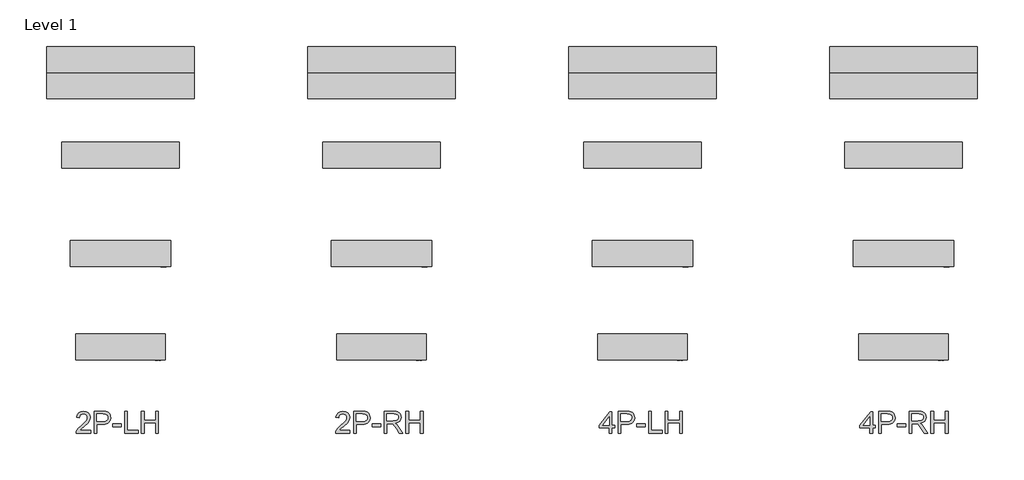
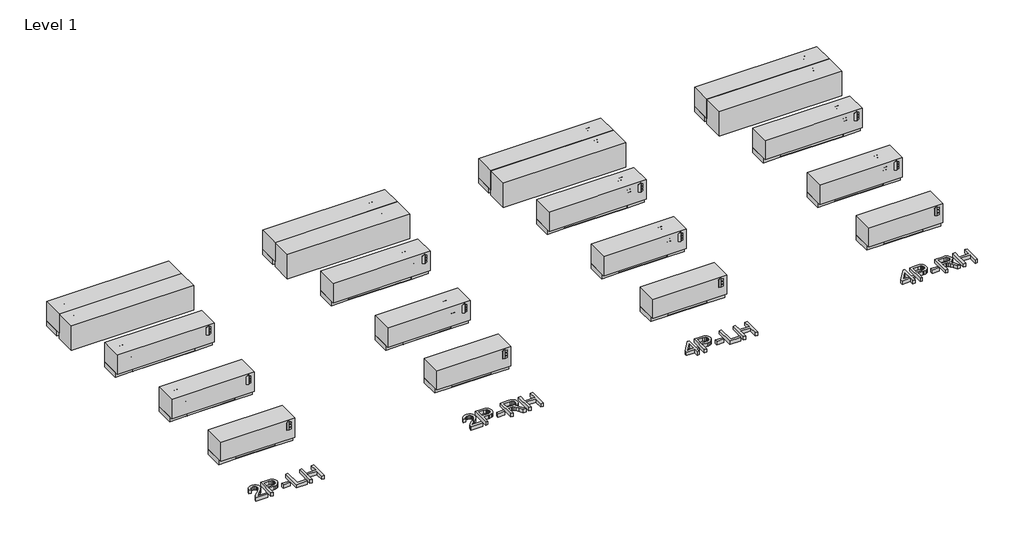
# One storey: 20 proxies.
"""IFC4 building model written with IfcOpenShell, lengths in millimetres."""

from ifc_helpers import new_model, si_unit, origin, origin_with_axes, place, context, project, spatial, polyline, outline, extrude, transform, mapped, element, save
from components import mechanical_equipment_0564a80a, mechanical_equipment_9b063579, mechanical_equipment_f1039a7d, mechanical_equipment_dbaeb260, mechanical_equipment_014a290c, mechanical_equipment_9fad054e, mechanical_equipment_87d96264, mechanical_equipment_ad819670, mechanical_equipment_322e51af, mechanical_equipment_0ebedba7, mechanical_equipment_0cc4002c, mechanical_equipment_2964302d

model = new_model("IFC4")

# Units and contexts
model_context = context("Model", 3, world=origin())
ifc_project = project(units=[si_unit("LENGTHUNIT", "METRE", prefix="MILLI")], contexts=[model_context])

# Site, building, storey
site = spatial("IfcSite", under=ifc_project)
building = spatial("IfcBuilding", under=site)
storey = spatial("IfcBuildingStorey", under=building, Name="Level 1", Elevation=0.0)

# Proxies
placement = place(None, origin())
mechanical_equipment_shape = mechanical_equipment_0564a80a(model_context)
element("IfcBuildingElementProxy", 1, Name="Exposed_Low_Boy_Fan_Coil_Unit Fan_-_LXA_-_IEC_-_4-Pipe_RH_2022 : Size 06 - 277v/60Hz/1Ph - 2/1 Coil", ObjectType="Exposed_Low_Boy_Fan_Coil_Unit Fan_-_LXA_-_IEC_-_4-Pipe_RH_2022 : Size 06 - 277v/60Hz/1Ph - 2/1 Coil", at=placement, inside=storey, context=model_context, shape_type="MappedRepresentation", body=[
    mapped(mechanical_equipment_shape, transform((-20535.4824685, 3427.6832997, 0.0), x_axis=(1.0, 0.0, 0.0), y_axis=(0.0, 1.0, 0.0), z_axis=(0.0, 0.0, 1.0))),
])
element("IfcBuildingElementProxy", 2, Name="Exposed_Low_Boy_Fan_Coil_Unit Fan_-_LXA_-_IEC_-_4-Pipe_LH_2022 : Size 06 - 277v/60Hz/1Ph - 2/1 Coil", ObjectType="Exposed_Low_Boy_Fan_Coil_Unit Fan_-_LXA_-_IEC_-_4-Pipe_LH_2022 : Size 06 - 277v/60Hz/1Ph - 2/1 Coil", at=placement, inside=storey, context=model_context, shape_type="MappedRepresentation", body=[
    mapped(mechanical_equipment_shape, transform((-23583.4824685, 3427.6832997, 0.0), x_axis=(1.0, 0.0, 0.0), y_axis=(0.0, 1.0, 0.0), z_axis=(0.0, 0.0, 1.0))),
])
mechanical_equipment_2_shape = mechanical_equipment_9b063579(model_context)
element("IfcBuildingElementProxy", 3, Name="Exposed_Low_Boy_Fan_Coil_Unit Fan_-_LXA_-_IEC_-_2-Pipe_LH_2022 : Size 06 - 277v/60Hz/1Ph - 2/1 Coil", ObjectType="Exposed_Low_Boy_Fan_Coil_Unit Fan_-_LXA_-_IEC_-_2-Pipe_LH_2022 : Size 06 - 277v/60Hz/1Ph - 2/1 Coil", at=placement, inside=storey, context=model_context, shape_type="MappedRepresentation", body=[
    mapped(mechanical_equipment_2_shape, transform((-29679.4824685, 3427.6832997, 0.0), x_axis=(1.0, 0.0, 0.0), y_axis=(0.0, 1.0, 0.0), z_axis=(0.0, 0.0, 1.0))),
])
mechanical_equipment_3_shape = mechanical_equipment_f1039a7d(model_context)
element("IfcBuildingElementProxy", 4, Name="Exposed_Low_Boy_Fan_Coil_Unit Fan_-_LXA_-_IEC_-_2-Pipe_RH_2022 : Size 06 - 277v/60Hz/1Ph - 2/1 Coil", ObjectType="Exposed_Low_Boy_Fan_Coil_Unit Fan_-_LXA_-_IEC_-_2-Pipe_RH_2022 : Size 06 - 277v/60Hz/1Ph - 2/1 Coil", at=placement, inside=storey, context=model_context, shape_type="MappedRepresentation", body=[
    mapped(mechanical_equipment_3_shape, transform((-26631.4824685, 3427.6832997, 0.0), x_axis=(1.0, 0.0, 0.0), y_axis=(0.0, 1.0, 0.0), z_axis=(0.0, 0.0, 1.0))),
])
mechanical_equipment_4_shape = mechanical_equipment_dbaeb260(model_context)
element("IfcBuildingElementProxy", 5, Name="Exposed_Low_Boy_Fan_Coil_Unit Fan_-_LXA_-_IEC_-_2-Pipe_LH_2022 : Size 02 - 277v/60Hz/1Ph - 2/1 Coil", ObjectType="Exposed_Low_Boy_Fan_Coil_Unit Fan_-_LXA_-_IEC_-_2-Pipe_LH_2022 : Size 02 - 277v/60Hz/1Ph - 2/1 Coil", at=placement, inside=storey, context=model_context, shape_type="MappedRepresentation", body=[
    mapped(mechanical_equipment_4_shape, transform((-29336.5824685, 66.3659997, 0.0), x_axis=(1.0, 0.0, 0.0), y_axis=(0.0, 1.0, 0.0), z_axis=(0.0, 0.0, 1.0))),
])
mechanical_equipment_5_shape = mechanical_equipment_014a290c(model_context)
element("IfcBuildingElementProxy", 6, Name="Exposed_Low_Boy_Fan_Coil_Unit Fan_-_LXA_-_IEC_-_2-Pipe_LH_2022 : Size 03 - 277v/60Hz/1Ph - 2/1 Coil", ObjectType="Exposed_Low_Boy_Fan_Coil_Unit Fan_-_LXA_-_IEC_-_2-Pipe_LH_2022 : Size 03 - 277v/60Hz/1Ph - 2/1 Coil", at=placement, inside=storey, context=model_context, shape_type="MappedRepresentation", body=[
    mapped(mechanical_equipment_5_shape, transform((-29400.0824685, 1158.1373442, 0.0), x_axis=(1.0, 0.0, 0.0), y_axis=(0.0, 1.0, 0.0), z_axis=(0.0, 0.0, 1.0))),
])
mechanical_equipment_6_shape = mechanical_equipment_9fad054e(model_context)
element("IfcBuildingElementProxy", 7, Name="Exposed_Low_Boy_Fan_Coil_Unit Fan_-_LXA_-_IEC_-_2-Pipe_LH_2022 : Size 04 - 277v/60Hz/1Ph - 2/1 Coil", ObjectType="Exposed_Low_Boy_Fan_Coil_Unit Fan_-_LXA_-_IEC_-_2-Pipe_LH_2022 : Size 04 - 277v/60Hz/1Ph - 2/1 Coil", at=placement, inside=storey, context=model_context, shape_type="MappedRepresentation", body=[
    mapped(mechanical_equipment_6_shape, transform((-29501.6824685, 2312.2956227, 0.0), x_axis=(1.0, 0.0, 0.0), y_axis=(0.0, 1.0, 0.0), z_axis=(0.0, 0.0, 1.0))),
])
mechanical_equipment_7_shape = mechanical_equipment_87d96264(model_context)
element("IfcBuildingElementProxy", 8, Name="Exposed_Low_Boy_Fan_Coil_Unit Fan_-_LXA_-_IEC_-_2-Pipe_RH_2022 : Size 02 - 277v/60Hz/1Ph - 2/1 Coil", ObjectType="Exposed_Low_Boy_Fan_Coil_Unit Fan_-_LXA_-_IEC_-_2-Pipe_RH_2022 : Size 02 - 277v/60Hz/1Ph - 2/1 Coil", at=placement, inside=storey, context=model_context, shape_type="MappedRepresentation", body=[
    mapped(mechanical_equipment_7_shape, transform((-26288.5824685, 66.3659997, 0.0), x_axis=(1.0, 0.0, 0.0), y_axis=(0.0, 1.0, 0.0), z_axis=(0.0, 0.0, 1.0))),
])
mechanical_equipment_8_shape = mechanical_equipment_ad819670(model_context)
element("IfcBuildingElementProxy", 9, Name="Exposed_Low_Boy_Fan_Coil_Unit Fan_-_LXA_-_IEC_-_2-Pipe_RH_2022 : Size 03 - 277v/60Hz/1Ph - 2/1 Coil", ObjectType="Exposed_Low_Boy_Fan_Coil_Unit Fan_-_LXA_-_IEC_-_2-Pipe_RH_2022 : Size 03 - 277v/60Hz/1Ph - 2/1 Coil", at=placement, inside=storey, context=model_context, shape_type="MappedRepresentation", body=[
    mapped(mechanical_equipment_8_shape, transform((-26352.0824685, 1158.1373442, 0.0), x_axis=(1.0, 0.0, 0.0), y_axis=(0.0, 1.0, 0.0), z_axis=(0.0, 0.0, 1.0))),
])
mechanical_equipment_9_shape = mechanical_equipment_322e51af(model_context)
element("IfcBuildingElementProxy", 10, Name="Exposed_Low_Boy_Fan_Coil_Unit Fan_-_LXA_-_IEC_-_2-Pipe_RH_2022 : Size 04 - 277v/60Hz/1Ph - 2/1 Coil", ObjectType="Exposed_Low_Boy_Fan_Coil_Unit Fan_-_LXA_-_IEC_-_2-Pipe_RH_2022 : Size 04 - 277v/60Hz/1Ph - 2/1 Coil", at=placement, inside=storey, context=model_context, shape_type="MappedRepresentation", body=[
    mapped(mechanical_equipment_9_shape, transform((-26453.6824685, 2312.2956227, 0.0), x_axis=(1.0, 0.0, 0.0), y_axis=(0.0, 1.0, 0.0), z_axis=(0.0, 0.0, 1.0))),
])
mechanical_equipment_10_shape = mechanical_equipment_0ebedba7(model_context)
element("IfcBuildingElementProxy", 11, Name="Exposed_Low_Boy_Fan_Coil_Unit Fan_-_LXA_-_IEC_-_4-Pipe_LH_2022 : Size 02 - 277v/60Hz/1Ph - 2/1 Coil", ObjectType="Exposed_Low_Boy_Fan_Coil_Unit Fan_-_LXA_-_IEC_-_4-Pipe_LH_2022 : Size 02 - 277v/60Hz/1Ph - 2/1 Coil", at=placement, inside=storey, context=model_context, shape_type="MappedRepresentation", body=[
    mapped(mechanical_equipment_10_shape, transform((-23240.5824685, 66.3659997, 0.0), x_axis=(1.0, 0.0, 0.0), y_axis=(0.0, 1.0, 0.0), z_axis=(0.0, 0.0, 1.0))),
])
mechanical_equipment_11_shape = mechanical_equipment_0cc4002c(model_context)
element("IfcBuildingElementProxy", 12, Name="Exposed_Low_Boy_Fan_Coil_Unit Fan_-_LXA_-_IEC_-_4-Pipe_LH_2022 : Size 03 - 277v/60Hz/1Ph - 2/1 Coil", ObjectType="Exposed_Low_Boy_Fan_Coil_Unit Fan_-_LXA_-_IEC_-_4-Pipe_LH_2022 : Size 03 - 277v/60Hz/1Ph - 2/1 Coil", at=placement, inside=storey, context=model_context, shape_type="MappedRepresentation", body=[
    mapped(mechanical_equipment_11_shape, transform((-23304.0824685, 1158.1373442, 0.0), x_axis=(1.0, 0.0, 0.0), y_axis=(0.0, 1.0, 0.0), z_axis=(0.0, 0.0, 1.0))),
])
mechanical_equipment_12_shape = mechanical_equipment_2964302d(model_context)
element("IfcBuildingElementProxy", 13, Name="Exposed_Low_Boy_Fan_Coil_Unit Fan_-_LXA_-_IEC_-_4-Pipe_LH_2022 : Size 04 - 277v/60Hz/1Ph - 2/1 Coil", ObjectType="Exposed_Low_Boy_Fan_Coil_Unit Fan_-_LXA_-_IEC_-_4-Pipe_LH_2022 : Size 04 - 277v/60Hz/1Ph - 2/1 Coil", at=placement, inside=storey, context=model_context, shape_type="MappedRepresentation", body=[
    mapped(mechanical_equipment_12_shape, transform((-23405.6824685, 2312.2956227, 0.0), x_axis=(1.0, 0.0, 0.0), y_axis=(0.0, 1.0, 0.0), z_axis=(0.0, 0.0, 1.0))),
])
element("IfcBuildingElementProxy", 14, Name="Exposed_Low_Boy_Fan_Coil_Unit Fan_-_LXA_-_IEC_-_4-Pipe_RH_2022 : Size 02 - 277v/60Hz/1Ph - 2/1 Coil", ObjectType="Exposed_Low_Boy_Fan_Coil_Unit Fan_-_LXA_-_IEC_-_4-Pipe_RH_2022 : Size 02 - 277v/60Hz/1Ph - 2/1 Coil", at=placement, inside=storey, context=model_context, shape_type="MappedRepresentation", body=[
    mapped(mechanical_equipment_10_shape, transform((-20192.5824685, 66.3659997, 0.0), x_axis=(1.0, 0.0, 0.0), y_axis=(0.0, 1.0, 0.0), z_axis=(0.0, 0.0, 1.0))),
])
element("IfcBuildingElementProxy", 15, Name="Exposed_Low_Boy_Fan_Coil_Unit Fan_-_LXA_-_IEC_-_4-Pipe_RH_2022 : Size 03 - 277v/60Hz/1Ph - 2/1 Coil", ObjectType="Exposed_Low_Boy_Fan_Coil_Unit Fan_-_LXA_-_IEC_-_4-Pipe_RH_2022 : Size 03 - 277v/60Hz/1Ph - 2/1 Coil", at=placement, inside=storey, context=model_context, shape_type="MappedRepresentation", body=[
    mapped(mechanical_equipment_11_shape, transform((-20256.0824685, 1158.1373442, 0.0), x_axis=(1.0, 0.0, 0.0), y_axis=(0.0, 1.0, 0.0), z_axis=(0.0, 0.0, 1.0))),
])
element("IfcBuildingElementProxy", 16, Name="Exposed_Low_Boy_Fan_Coil_Unit Fan_-_LXA_-_IEC_-_4-Pipe_RH_2022 : Size 04 - 277v/60Hz/1Ph - 2/1 Coil", ObjectType="Exposed_Low_Boy_Fan_Coil_Unit Fan_-_LXA_-_IEC_-_4-Pipe_RH_2022 : Size 04 - 277v/60Hz/1Ph - 2/1 Coil", at=placement, inside=storey, context=model_context, shape_type="MappedRepresentation", body=[
    mapped(mechanical_equipment_12_shape, transform((-20357.6824685, 2312.2956227, 0.0), x_axis=(1.0, 0.0, 0.0), y_axis=(0.0, 1.0, 0.0), z_axis=(0.0, 0.0, 1.0))),
])
element("IfcBuildingElementProxy", 17, Name="24\" Arial", ObjectType="24\" Arial", at=placement, inside=storey, context=model_context, shape_type="SweptSolid", body=[
    extrude(outline(polyline([(-29013.6266128, -1298.4132129), (-29013.6266128, -1330.3080913), (-29181.0747248, -1330.3080913), (-29177.6485172, -1308.3180677), (-29169.7838133, -1291.1325216), (-29158.2748703, -1274.4609067), (-29118.3439775, -1237.4890114), (-29083.9261643, -1206.917895), (-29063.2754764, -1184.3516455), (-29052.9501324, -1166.0370083), (-29049.5083511, -1148.2207285), (-29052.7554616, -1132.2499287), (-29062.4967928, -1118.9733741), (-29077.4708776, -1110.0263), (-29096.4162486, -1107.043942), (-29116.3116134, -1109.9562185), (-29131.768482, -1118.693048), (-29141.7434184, -1132.569189), (-29145.1929865, -1150.8993999), (-29177.087865, -1146.9125401), (-29169.3555373, -1116.0610976), (-29152.6372013, -1093.5259955), (-29127.8049827, -1079.7432965), (-29095.731007, -1075.1490635), (-29063.4234263, -1080.2572277), (-29038.6379287, -1095.5817201), (-29022.8695867, -1118.4750166), (-29017.6134726, -1146.2895933), (-29023.2822889, -1176.5336626), (-29042.126431, -1207.8055942), (-29087.8195821, -1251.5053154), (-29124.5111513, -1282.1854475), (-29138.9012234, -1298.4132129), (-29013.6266128, -1298.4132129)])), origin_with_axes(), (0.0, 0.0, 1.0), 50.8),
    extrude(outline(polyline([(-28969.7711549, -1330.3080913), (-28969.7711549, -1075.1490635), (-28875.2078238, -1075.1490635), (-28837.0834769, -1077.5785562), (-28820.0848149, -1082.1182814), (-28806.0918714, -1089.5079883), (-28794.8243203, -1100.082511), (-28786.0018356, -1114.1766834), (-28780.301872, -1130.8015773), (-28778.4018841, -1148.9682647), (-28783.5334087, -1179.0410237), (-28798.9279827, -1204.0990605), (-28811.2564901, -1213.9649812), (-28827.7159137, -1221.0120673), (-28848.3062537, -1225.2403191), (-28873.0275099, -1226.6497363), (-28937.8762765, -1226.6497363), (-28937.8762765, -1330.3080913), (-28969.7711549, -1330.3080913)]), holes=[polyline([(-28937.8762765, -1194.7548578), (-28871.1586693, -1194.7548578), (-28842.8768826, -1191.8270076), (-28824.1884772, -1183.0434571), (-28813.7696912, -1168.9492848), (-28810.2967626, -1150.089569), (-28812.3447003, -1135.7617916), (-28818.4885136, -1123.6766228), (-28827.9650925, -1114.5815988), (-28840.0113271, -1109.224256), (-28871.9062056, -1107.043942), (-28937.8762765, -1107.043942), (-28937.8762765, -1194.7548578)])]), origin_with_axes(), (0.0, 0.0, 1.0), 50.8),
    extrude(outline(polyline([(-28754.4807253, -1254.557755), (-28754.4807253, -1222.6628765), (-28654.80923, -1222.6628765), (-28654.80923, -1254.557755), (-28754.4807253, -1254.557755)])), origin_with_axes(), (0.0, 0.0, 1.0), 50.8),
    extrude(outline(polyline([(-28614.9406319, -1330.3080913), (-28614.9406319, -1075.1490635), (-28583.0457535, -1075.1490635), (-28583.0457535, -1298.4132129), (-28455.4662396, -1298.4132129), (-28455.4662396, -1330.3080913), (-28614.9406319, -1330.3080913)])), origin_with_axes(), (0.0, 0.0, 1.0), 50.8),
    extrude(outline(polyline([(-28419.5845013, -1330.3080913), (-28419.5845013, -1075.1490635), (-28387.6896228, -1075.1490635), (-28387.6896228, -1178.8074186), (-28252.1363893, -1178.8074186), (-28252.1363893, -1075.1490635), (-28220.2415108, -1075.1490635), (-28220.2415108, -1330.3080913), (-28252.1363893, -1330.3080913), (-28252.1363893, -1210.7022971), (-28387.6896228, -1210.7022971), (-28387.6896228, -1330.3080913), (-28419.5845013, -1330.3080913)])), origin_with_axes(), (0.0, 0.0, 1.0), 50.8),
])
element("IfcBuildingElementProxy", 18, Name="24\" Arial", ObjectType="24\" Arial", at=placement, inside=storey, context=model_context, shape_type="SweptSolid", body=[
    extrude(outline(polyline([(-25983.7177825, -1298.4132129), (-25983.7177825, -1330.3080913), (-26151.1658945, -1330.3080913), (-26147.7396868, -1308.3180677), (-26139.8749829, -1291.1325216), (-26128.3660399, -1274.4609067), (-26088.4351472, -1237.4890114), (-26054.017334, -1206.917895), (-26033.3666461, -1184.3516455), (-26023.0413021, -1166.0370083), (-26019.5995208, -1148.2207285), (-26022.8466312, -1132.2499287), (-26032.5879625, -1118.9733741), (-26047.5620473, -1110.0263), (-26066.5074182, -1107.043942), (-26086.4027831, -1109.9562185), (-26101.8596517, -1118.693048), (-26111.834588, -1132.569189), (-26115.2841562, -1150.8993999), (-26147.1790347, -1146.9125401), (-26139.4467069, -1116.0610976), (-26122.728371, -1093.5259955), (-26097.8961524, -1079.7432965), (-26065.8221767, -1075.1490635), (-26033.5145959, -1080.2572277), (-26008.7290983, -1095.5817201), (-25992.9607563, -1118.4750166), (-25987.7046423, -1146.2895933), (-25993.3734586, -1176.5336626), (-26012.2176007, -1207.8055942), (-26057.9107518, -1251.5053154), (-26094.6023209, -1282.1854475), (-26108.9923931, -1298.4132129), (-25983.7177825, -1298.4132129)])), origin_with_axes(), (0.0, 0.0, 1.0), 50.8),
    extrude(outline(polyline([(-25939.8623246, -1330.3080913), (-25939.8623246, -1075.1490635), (-25845.2989935, -1075.1490635), (-25807.1746466, -1077.5785562), (-25790.1759845, -1082.1182814), (-25776.183041, -1089.5079883), (-25764.91549, -1100.082511), (-25756.0930053, -1114.1766834), (-25750.3930416, -1130.8015773), (-25748.4930538, -1148.9682647), (-25753.6245784, -1179.0410237), (-25769.0191523, -1204.0990605), (-25781.3476597, -1213.9649812), (-25797.8070834, -1221.0120673), (-25818.3974233, -1225.2403191), (-25843.1186795, -1226.6497363), (-25907.9674461, -1226.6497363), (-25907.9674461, -1330.3080913), (-25939.8623246, -1330.3080913)]), holes=[polyline([(-25907.9674461, -1194.7548578), (-25841.249839, -1194.7548578), (-25812.9680522, -1191.8270076), (-25794.2796469, -1183.0434571), (-25783.8608609, -1168.9492848), (-25780.3879322, -1150.089569), (-25782.43587, -1135.7617916), (-25788.5796832, -1123.6766228), (-25798.0562621, -1114.5815988), (-25810.1024967, -1109.224256), (-25841.9973752, -1107.043942), (-25907.9674461, -1107.043942), (-25907.9674461, -1194.7548578)])]), origin_with_axes(), (0.0, 0.0, 1.0), 50.8),
    extrude(outline(polyline([(-25724.5718949, -1254.557755), (-25724.5718949, -1222.6628765), (-25624.9003997, -1222.6628765), (-25624.9003997, -1254.557755), (-25724.5718949, -1254.557755)])), origin_with_axes(), (0.0, 0.0, 1.0), 50.8),
    extrude(outline(polyline([(-25585.0318016, -1330.3080913), (-25585.0318016, -1075.1490635), (-25475.0816834, -1075.1490635), (-25445.5306424, -1076.8699542), (-25424.0311895, -1082.0326262), (-25408.3173553, -1091.5637129), (-25396.1231708, -1106.3898478), (-25388.297401, -1124.7745666), (-25385.6888111, -1144.9814049), (-25390.0105049, -1170.1173101), (-25402.9755861, -1190.9548821), (-25424.9733966, -1206.2326534), (-25456.3932781, -1214.6891569), (-25438.2655249, -1228.3316928), (-25412.4132308, -1261.1609915), (-25369.8659613, -1330.3080913), (-25406.9312986, -1330.3080913), (-25440.1343654, -1277.4199042), (-25464.1178189, -1242.4102915), (-25480.9685311, -1225.8710527), (-25496.1372868, -1219.797321), (-25514.6388081, -1218.6760167), (-25553.1369231, -1218.6760167), (-25553.1369231, -1330.3080913), (-25585.0318016, -1330.3080913)]), holes=[polyline([(-25553.1369231, -1186.7811382), (-25481.7472147, -1186.7811382), (-25445.3359716, -1182.2647736), (-25433.3598185, -1176.3934996), (-25424.6541363, -1167.8124068), (-25419.3513013, -1157.432555), (-25417.5836896, -1146.1650039), (-25420.9553894, -1130.6069064), (-25431.0704888, -1118.0701012), (-25448.4740663, -1109.8004818), (-25473.7112004, -1107.043942), (-25553.1369231, -1107.043942), (-25553.1369231, -1186.7811382)])]), origin_with_axes(), (0.0, 0.0, 1.0), 50.8),
    extrude(outline(polyline([(-25329.8727738, -1330.3080913), (-25329.8727738, -1075.1490635), (-25297.9778953, -1075.1490635), (-25297.9778953, -1178.8074186), (-25162.4246618, -1178.8074186), (-25162.4246618, -1075.1490635), (-25130.5297834, -1075.1490635), (-25130.5297834, -1330.3080913), (-25162.4246618, -1330.3080913), (-25162.4246618, -1210.7022971), (-25297.9778953, -1210.7022971), (-25297.9778953, -1330.3080913), (-25329.8727738, -1330.3080913)])), origin_with_axes(), (0.0, 0.0, 1.0), 50.8),
])
element("IfcBuildingElementProxy", 19, Name="24\" Arial", ObjectType="24\" Arial", at=placement, inside=storey, context=model_context, shape_type="SweptSolid", body=[
    extrude(outline(polyline([(-22955.7019204, -1330.3080913), (-22955.7019204, -1270.5051942), (-23071.3208548, -1270.5051942), (-23071.3208548, -1238.6103157), (-22947.7282007, -1079.1359234), (-22923.8070419, -1079.1359234), (-22923.8070419, -1238.6103157), (-22891.9121634, -1238.6103157), (-22891.9121634, -1270.5051942), (-22923.8070419, -1270.5051942), (-22923.8070419, -1330.3080913), (-22955.7019204, -1330.3080913)]), holes=[polyline([(-22955.7019204, -1238.6103157), (-22955.7019204, -1140.0601248), (-23032.0752036, -1238.6103157), (-22955.7019204, -1238.6103157)])]), origin_with_axes(), (0.0, 0.0, 1.0), 50.8),
    extrude(outline(polyline([(-22852.0435653, -1330.3080913), (-22852.0435653, -1075.1490635), (-22757.4802342, -1075.1490635), (-22719.3558873, -1077.5785562), (-22702.3572253, -1082.1182814), (-22688.3642818, -1089.5079883), (-22677.0967307, -1100.082511), (-22668.274246, -1114.1766834), (-22662.5742824, -1130.8015773), (-22660.6742945, -1148.9682647), (-22665.8058191, -1179.0410237), (-22681.200393, -1204.0990605), (-22693.5289005, -1213.9649812), (-22709.9883241, -1221.0120673), (-22730.5786641, -1225.2403191), (-22755.2999203, -1226.6497363), (-22820.1486869, -1226.6497363), (-22820.1486869, -1330.3080913), (-22852.0435653, -1330.3080913)]), holes=[polyline([(-22820.1486869, -1194.7548578), (-22753.4310797, -1194.7548578), (-22725.149293, -1191.8270076), (-22706.4608876, -1183.0434571), (-22696.0421016, -1168.9492848), (-22692.569173, -1150.089569), (-22694.6171107, -1135.7617916), (-22700.760924, -1123.6766228), (-22710.2375029, -1114.5815988), (-22722.2837375, -1109.224256), (-22754.178616, -1107.043942), (-22820.1486869, -1107.043942), (-22820.1486869, -1194.7548578)])]), origin_with_axes(), (0.0, 0.0, 1.0), 50.8),
    extrude(outline(polyline([(-22636.7531356, -1254.557755), (-22636.7531356, -1222.6628765), (-22537.0816404, -1222.6628765), (-22537.0816404, -1254.557755), (-22636.7531356, -1254.557755)])), origin_with_axes(), (0.0, 0.0, 1.0), 50.8),
    extrude(outline(polyline([(-22497.2130423, -1330.3080913), (-22497.2130423, -1075.1490635), (-22465.3181639, -1075.1490635), (-22465.3181639, -1298.4132129), (-22337.73865, -1298.4132129), (-22337.73865, -1330.3080913), (-22497.2130423, -1330.3080913)])), origin_with_axes(), (0.0, 0.0, 1.0), 50.8),
    extrude(outline(polyline([(-22301.8569117, -1330.3080913), (-22301.8569117, -1075.1490635), (-22269.9620332, -1075.1490635), (-22269.9620332, -1178.8074186), (-22134.4087997, -1178.8074186), (-22134.4087997, -1075.1490635), (-22102.5139212, -1075.1490635), (-22102.5139212, -1330.3080913), (-22134.4087997, -1330.3080913), (-22134.4087997, -1210.7022971), (-22269.9620332, -1210.7022971), (-22269.9620332, -1330.3080913), (-22301.8569117, -1330.3080913)])), origin_with_axes(), (0.0, 0.0, 1.0), 50.8),
])
element("IfcBuildingElementProxy", 20, Name="24\" Arial", ObjectType="24\" Arial", at=placement, inside=storey, context=model_context, shape_type="SweptSolid", body=[
    extrude(outline(polyline([(-19912.7230706, -1330.3080913), (-19912.7230706, -1270.5051942), (-20028.3420051, -1270.5051942), (-20028.3420051, -1238.6103157), (-19904.749351, -1079.1359234), (-19880.8281922, -1079.1359234), (-19880.8281922, -1238.6103157), (-19848.9333137, -1238.6103157), (-19848.9333137, -1270.5051942), (-19880.8281922, -1270.5051942), (-19880.8281922, -1330.3080913), (-19912.7230706, -1330.3080913)]), holes=[polyline([(-19912.7230706, -1238.6103157), (-19912.7230706, -1140.0601248), (-19989.0963539, -1238.6103157), (-19912.7230706, -1238.6103157)])]), origin_with_axes(), (0.0, 0.0, 1.0), 50.8),
    extrude(outline(polyline([(-19809.0647156, -1330.3080913), (-19809.0647156, -1075.1490635), (-19714.5013845, -1075.1490635), (-19676.3770376, -1077.5785562), (-19659.3783755, -1082.1182814), (-19645.385432, -1089.5079883), (-19634.117881, -1100.082511), (-19625.2953963, -1114.1766834), (-19619.5954326, -1130.8015773), (-19617.6954448, -1148.9682647), (-19622.8269694, -1179.0410237), (-19638.2215433, -1204.0990605), (-19650.5500507, -1213.9649812), (-19667.0094744, -1221.0120673), (-19687.5998143, -1225.2403191), (-19712.3210705, -1226.6497363), (-19777.1698371, -1226.6497363), (-19777.1698371, -1330.3080913), (-19809.0647156, -1330.3080913)]), holes=[polyline([(-19777.1698371, -1194.7548578), (-19710.45223, -1194.7548578), (-19682.1704432, -1191.8270076), (-19663.4820379, -1183.0434571), (-19653.0632519, -1168.9492848), (-19649.5903232, -1150.089569), (-19651.638261, -1135.7617916), (-19657.7820742, -1123.6766228), (-19667.2586531, -1114.5815988), (-19679.3048877, -1109.224256), (-19711.1997662, -1107.043942), (-19777.1698371, -1107.043942), (-19777.1698371, -1194.7548578)])]), origin_with_axes(), (0.0, 0.0, 1.0), 50.8),
    extrude(outline(polyline([(-19593.7742859, -1254.557755), (-19593.7742859, -1222.6628765), (-19494.1027907, -1222.6628765), (-19494.1027907, -1254.557755), (-19593.7742859, -1254.557755)])), origin_with_axes(), (0.0, 0.0, 1.0), 50.8),
    extrude(outline(polyline([(-19454.2341926, -1330.3080913), (-19454.2341926, -1075.1490635), (-19344.2840744, -1075.1490635), (-19314.7330335, -1076.8699542), (-19293.2335805, -1082.0326262), (-19277.5197463, -1091.5637129), (-19265.3255618, -1106.3898478), (-19257.4997921, -1124.7745666), (-19254.8912021, -1144.9814049), (-19259.2128959, -1170.1173101), (-19272.1779771, -1190.9548821), (-19294.1757876, -1206.2326534), (-19325.5956691, -1214.6891569), (-19307.4679159, -1228.3316928), (-19281.6156218, -1261.1609915), (-19239.0683523, -1330.3080913), (-19276.1336896, -1330.3080913), (-19309.3367564, -1277.4199042), (-19333.3202099, -1242.4102915), (-19350.1709221, -1225.8710527), (-19365.3396778, -1219.797321), (-19383.8411991, -1218.6760167), (-19422.3393141, -1218.6760167), (-19422.3393141, -1330.3080913), (-19454.2341926, -1330.3080913)]), holes=[polyline([(-19422.3393141, -1186.7811382), (-19350.9496057, -1186.7811382), (-19314.5383626, -1182.2647736), (-19302.5622095, -1176.3934996), (-19293.8565273, -1167.8124068), (-19288.5536923, -1157.432555), (-19286.7860806, -1146.1650039), (-19290.1577804, -1130.6069064), (-19300.2728798, -1118.0701012), (-19317.6764573, -1109.8004818), (-19342.9135914, -1107.043942), (-19422.3393141, -1107.043942), (-19422.3393141, -1186.7811382)])]), origin_with_axes(), (0.0, 0.0, 1.0), 50.8),
    extrude(outline(polyline([(-19199.0751648, -1330.3080913), (-19199.0751648, -1075.1490635), (-19167.1802863, -1075.1490635), (-19167.1802863, -1178.8074186), (-19031.6270528, -1178.8074186), (-19031.6270528, -1075.1490635), (-18999.7321744, -1075.1490635), (-18999.7321744, -1330.3080913), (-19031.6270528, -1330.3080913), (-19031.6270528, -1210.7022971), (-19167.1802863, -1210.7022971), (-19167.1802863, -1330.3080913), (-19199.0751648, -1330.3080913)])), origin_with_axes(), (0.0, 0.0, 1.0), 50.8),
])

save(model, "model.ifc")
